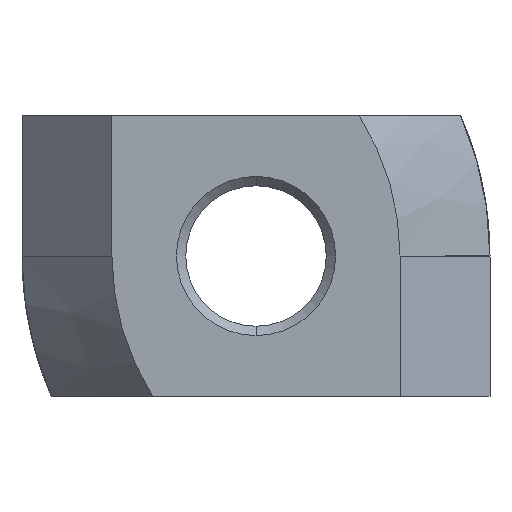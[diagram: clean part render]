
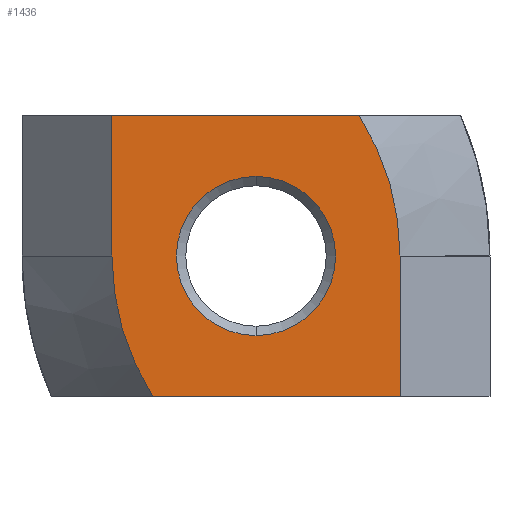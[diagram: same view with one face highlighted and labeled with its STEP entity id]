
A CAD part, front view. The second image highlights one B-rep face of the part: STEP entity #1436.
In plain terms, the highlighted planar face has unit normal (0, -1, 0).
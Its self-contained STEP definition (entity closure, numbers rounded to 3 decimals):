
#21 = DIRECTION ( 'NONE',  ( 0., -1., 0. ) ) ;
#131 = EDGE_CURVE ( 'NONE', #207, #1641, #1534, .T. ) ;
#149 = CIRCLE ( 'NONE', #847, 1.7 ) ;
#158 = EDGE_LOOP ( 'NONE', ( #1324, #709 ) ) ;
#207 = VERTEX_POINT ( 'NONE', #691 ) ;
#224 = ORIENTED_EDGE ( 'NONE', *, *, #921, .T. ) ;
#273 = AXIS2_PLACEMENT_3D ( 'NONE', #909, #21, #1307 ) ;
#284 = VECTOR ( 'NONE', #799, 1000. ) ;
#314 = DIRECTION ( 'NONE',  ( 0., 1., 0. ) ) ;
#357 = CARTESIAN_POINT ( 'NONE',  ( 3.078, 0., -3. ) ) ;
#362 = DIRECTION ( 'NONE',  ( 0., -1., 0. ) ) ;
#381 = EDGE_CURVE ( 'NONE', #814, #1340, #517, .T. ) ;
#434 = CARTESIAN_POINT ( 'NONE',  ( 3.078, 0., -3. ) ) ;
#448 = CARTESIAN_POINT ( 'NONE',  ( -3.078, 0., 3. ) ) ;
#488 = EDGE_CURVE ( 'NONE', #814, #1496, #892, .T. ) ;
#517 = LINE ( 'NONE', #1305, #535 ) ;
#535 = VECTOR ( 'NONE', #1176, 1000. ) ;
#553 = PLANE ( 'NONE',  #273 ) ;
#563 = AXIS2_PLACEMENT_3D ( 'NONE', #690, #1646, #1362 ) ;
#577 = CARTESIAN_POINT ( 'NONE',  ( -3.078, 0., 3. ) ) ;
#609 = ORIENTED_EDGE ( 'NONE', *, *, #1369, .T. ) ;
#642 = CARTESIAN_POINT ( 'NONE',  ( -5., 0., -3. ) ) ;
#690 = CARTESIAN_POINT ( 'NONE',  ( -2.5, 0., 0. ) ) ;
#691 = CARTESIAN_POINT ( 'NONE',  ( 0., 0., -1.7 ) ) ;
#694 = EDGE_CURVE ( 'NONE', #990, #964, #1174, .T. ) ;
#709 = ORIENTED_EDGE ( 'NONE', *, *, #876, .T. ) ;
#730 = CARTESIAN_POINT ( 'NONE',  ( 0., 0., 0. ) ) ;
#736 = CIRCLE ( 'NONE', #1053, 5.578 ) ;
#743 = ORIENTED_EDGE ( 'NONE', *, *, #381, .T. ) ;
#747 = CARTESIAN_POINT ( 'NONE',  ( -2.202, 0., -3. ) ) ;
#799 = DIRECTION ( 'NONE',  ( -1., 0., 0. ) ) ;
#814 = VERTEX_POINT ( 'NONE', #1197 ) ;
#847 = AXIS2_PLACEMENT_3D ( 'NONE', #1497, #314, #848 ) ;
#848 = DIRECTION ( 'NONE',  ( 0., 0., -1. ) ) ;
#876 = EDGE_CURVE ( 'NONE', #1641, #207, #149, .T. ) ;
#878 = DIRECTION ( 'NONE',  ( 0., 0., -1. ) ) ;
#881 = CARTESIAN_POINT ( 'NONE',  ( 0., 0., 1.7 ) ) ;
#892 = CIRCLE ( 'NONE', #563, 5.578 ) ;
#909 = CARTESIAN_POINT ( 'NONE',  ( 0., 0., 0. ) ) ;
#921 = EDGE_CURVE ( 'NONE', #1377, #964, #736, .T. ) ;
#941 = CARTESIAN_POINT ( 'NONE',  ( 3.078, 0., 0. ) ) ;
#964 = VERTEX_POINT ( 'NONE', #747 ) ;
#990 = VERTEX_POINT ( 'NONE', #357 ) ;
#1016 = CARTESIAN_POINT ( 'NONE',  ( 2.5, 0., 0. ) ) ;
#1038 = CARTESIAN_POINT ( 'NONE',  ( -3.078, 0., 0. ) ) ;
#1053 = AXIS2_PLACEMENT_3D ( 'NONE', #1016, #362, #878 ) ;
#1104 = ORIENTED_EDGE ( 'NONE', *, *, #488, .F. ) ;
#1120 = DIRECTION ( 'NONE',  ( 0., 0., -1. ) ) ;
#1131 = VECTOR ( 'NONE', #1210, 1000. ) ;
#1174 = LINE ( 'NONE', #642, #284 ) ;
#1176 = DIRECTION ( 'NONE',  ( -1., 0., 0. ) ) ;
#1178 = FACE_BOUND ( 'NONE', #158, .T. ) ;
#1197 = CARTESIAN_POINT ( 'NONE',  ( 2.202, 0., 3. ) ) ;
#1210 = DIRECTION ( 'NONE',  ( 0., 0., 1. ) ) ;
#1215 = ORIENTED_EDGE ( 'NONE', *, *, #694, .F. ) ;
#1217 = DIRECTION ( 'NONE',  ( 0., 1., 0. ) ) ;
#1275 = AXIS2_PLACEMENT_3D ( 'NONE', #730, #1217, #1120 ) ;
#1305 = CARTESIAN_POINT ( 'NONE',  ( 0., 0., 3. ) ) ;
#1307 = DIRECTION ( 'NONE',  ( 0., 0., -1. ) ) ;
#1324 = ORIENTED_EDGE ( 'NONE', *, *, #131, .T. ) ;
#1340 = VERTEX_POINT ( 'NONE', #577 ) ;
#1362 = DIRECTION ( 'NONE',  ( 0., 0., -1. ) ) ;
#1366 = LINE ( 'NONE', #434, #1131 ) ;
#1369 = EDGE_CURVE ( 'NONE', #1340, #1377, #1613, .T. ) ;
#1377 = VERTEX_POINT ( 'NONE', #1038 ) ;
#1384 = EDGE_LOOP ( 'NONE', ( #609, #224, #1215, #1717, #1104, #743 ) ) ;
#1435 = FACE_OUTER_BOUND ( 'NONE', #1384, .T. ) ;
#1436 = ADVANCED_FACE ( 'NONE', ( #1178, #1435 ), #553, .T. ) ;
#1496 = VERTEX_POINT ( 'NONE', #941 ) ;
#1497 = CARTESIAN_POINT ( 'NONE',  ( 0., 0., 0. ) ) ;
#1498 = DIRECTION ( 'NONE',  ( 0., 0., -1. ) ) ;
#1519 = VECTOR ( 'NONE', #1498, 1000. ) ;
#1534 = CIRCLE ( 'NONE', #1275, 1.7 ) ;
#1543 = EDGE_CURVE ( 'NONE', #990, #1496, #1366, .T. ) ;
#1613 = LINE ( 'NONE', #448, #1519 ) ;
#1641 = VERTEX_POINT ( 'NONE', #881 ) ;
#1646 = DIRECTION ( 'NONE',  ( 0., 1., 0. ) ) ;
#1717 = ORIENTED_EDGE ( 'NONE', *, *, #1543, .T. ) ;
